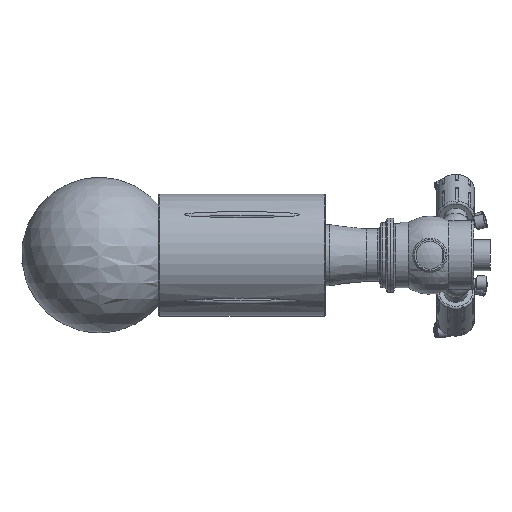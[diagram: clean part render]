
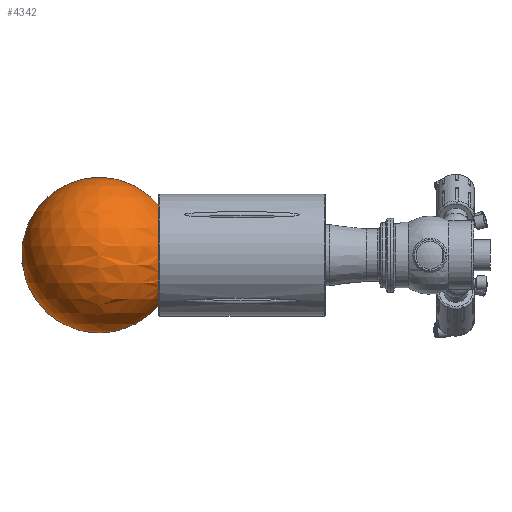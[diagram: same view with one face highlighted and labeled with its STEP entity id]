
A CAD part, left-side view. The second image highlights one B-rep face of the part: STEP entity #4342.
In plain terms, the highlighted spherical face has radius 72.5 mm.
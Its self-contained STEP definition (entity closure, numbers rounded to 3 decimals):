
#95=SPHERICAL_SURFACE('',#4803,72.5);
#110=FACE_BOUND('',#838,.T.);
#594=FACE_OUTER_BOUND('',#837,.T.);
#837=EDGE_LOOP('',(#3144,#3145));
#838=EDGE_LOOP('',(#3146));
#1537=CIRCLE('',#4804,72.5);
#1538=CIRCLE('',#4805,46.648);
#1869=VERTEX_POINT('',#7209);
#1870=VERTEX_POINT('',#7210);
#1871=VERTEX_POINT('',#7212);
#2375=EDGE_CURVE('',#1869,#1870,#1537,.T.);
#2376=EDGE_CURVE('',#1871,#1871,#1538,.T.);
#3144=ORIENTED_EDGE('',*,*,#2375,.T.);
#3145=ORIENTED_EDGE('',*,*,#2375,.F.);
#3146=ORIENTED_EDGE('',*,*,#2376,.F.);
#4342=ADVANCED_FACE('',(#594,#110),#95,.T.);
#4803=AXIS2_PLACEMENT_3D('',#7208,#5478,#5479);
#4804=AXIS2_PLACEMENT_3D('',#7211,#5480,#5481);
#4805=AXIS2_PLACEMENT_3D('',#7213,#5482,#5483);
#5478=DIRECTION('center_axis',(0.,0.,1.));
#5479=DIRECTION('ref_axis',(1.,0.,0.));
#5480=DIRECTION('center_axis',(0.,-1.,0.));
#5481=DIRECTION('ref_axis',(-1.,0.,0.));
#5482=DIRECTION('center_axis',(0.,-1.,0.));
#5483=DIRECTION('ref_axis',(1.,0.,0.));
#7208=CARTESIAN_POINT('Origin',(150.,266.5,0.));
#7209=CARTESIAN_POINT('',(150.,266.5,72.5));
#7210=CARTESIAN_POINT('',(150.,266.5,-72.5));
#7211=CARTESIAN_POINT('Origin',(150.,266.5,0.));
#7212=CARTESIAN_POINT('',(196.648,211.,0.));
#7213=CARTESIAN_POINT('Origin',(150.,211.,0.));
